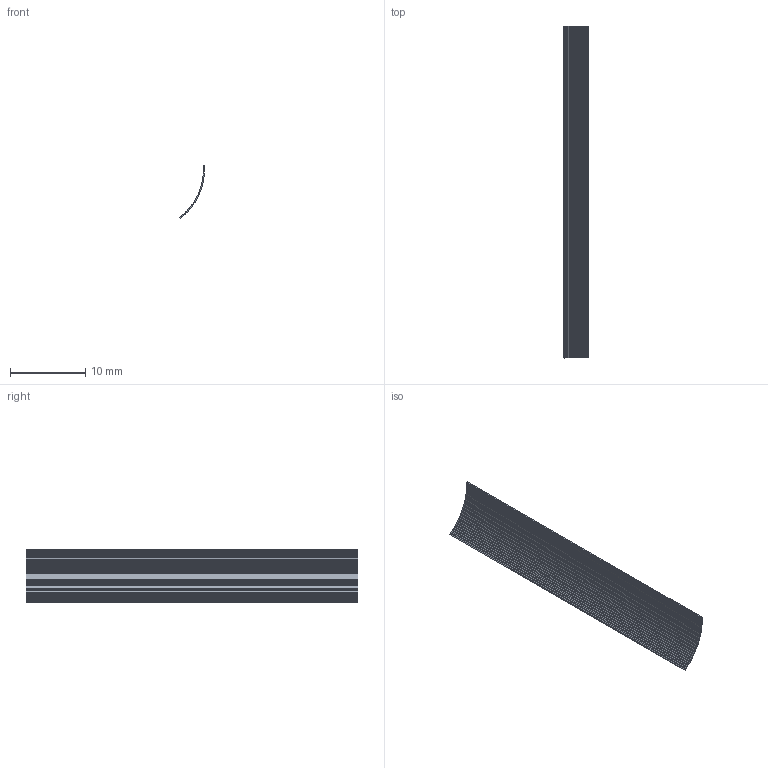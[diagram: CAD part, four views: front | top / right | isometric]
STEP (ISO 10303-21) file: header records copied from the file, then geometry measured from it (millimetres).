
FILE_DESCRIPTION(('Open CASCADE Model'),'2;1');
FILE_NAME('Open CASCADE Shape Model','2026-10-04T01:02:33',('Author'),( 'Open CASCADE'),'Open CASCADE STEP processor 8.0','Open CASCADE 8.0' ,'Unknown');
FILE_SCHEMA(('AUTOMOTIVE_DESIGN { 1 0 10303 214 1 1 1 1 }'));
Length unit declared in the file: millimetre
Products named in the file (1): Open CASCADE STEP translator 8.0 287
Bounding box: 3.31 x 44 x 7 mm (x, y, z)
Volume: 52.4 mm3; surface area: 714.1 mm2
Topology: 1 solids, 1 shells, 118 faces, 348 edges, 232 vertices
Faces by surface type: plane 118
Entity records: 8386 total; most frequent: CARTESIAN_POINT 1395, DIRECTION 1282, LINE 1044, VECTOR 1044, ORIENTED_EDGE 696, PCURVE 696, DEFINITIONAL_REPRESENTATION 696, EDGE_CURVE 348
